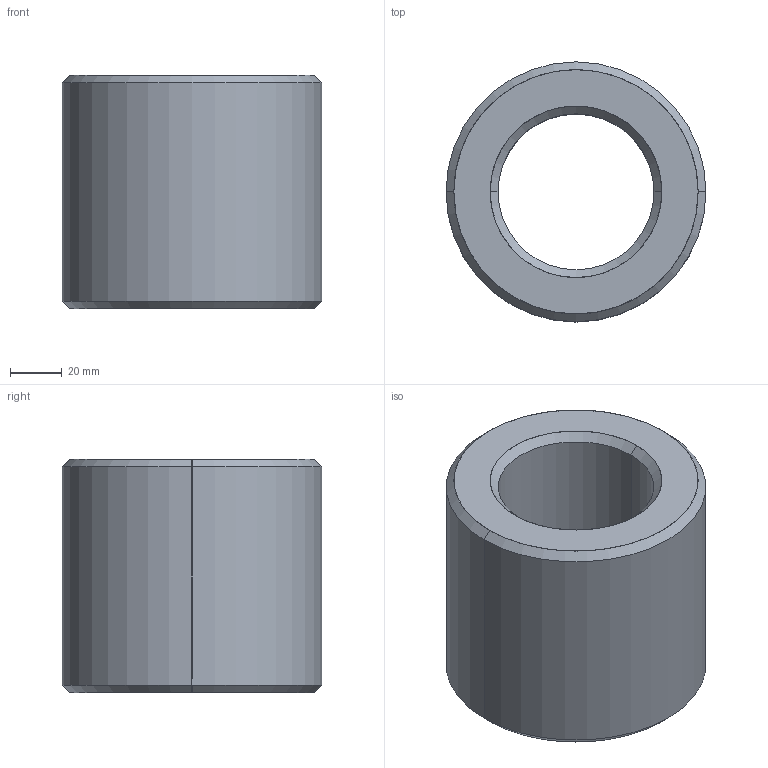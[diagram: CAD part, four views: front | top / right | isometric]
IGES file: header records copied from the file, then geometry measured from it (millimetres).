
Start section: SolidWorks IGES file using analytic representation for surfaces
Global section: file name: C:\Users\ianosborn\Desktop\L1339_v2\L1339_v2_20241024_IGES\L1339.L60-09.igs; native system: SolidWorks 2019; preprocessor: SolidWorks 2019; author: IanOsborn; date: 241024.150724; units: millimetre
Bounding box: 100 x 100 x 90 mm (x, y, z)
Surface area: 53525.3 mm2 (no closed solid volume)
Topology: 0 solids, 0 shells, 14 faces, 304 edges, 304 vertices
Faces by surface type: revolution 12, bspline 2
